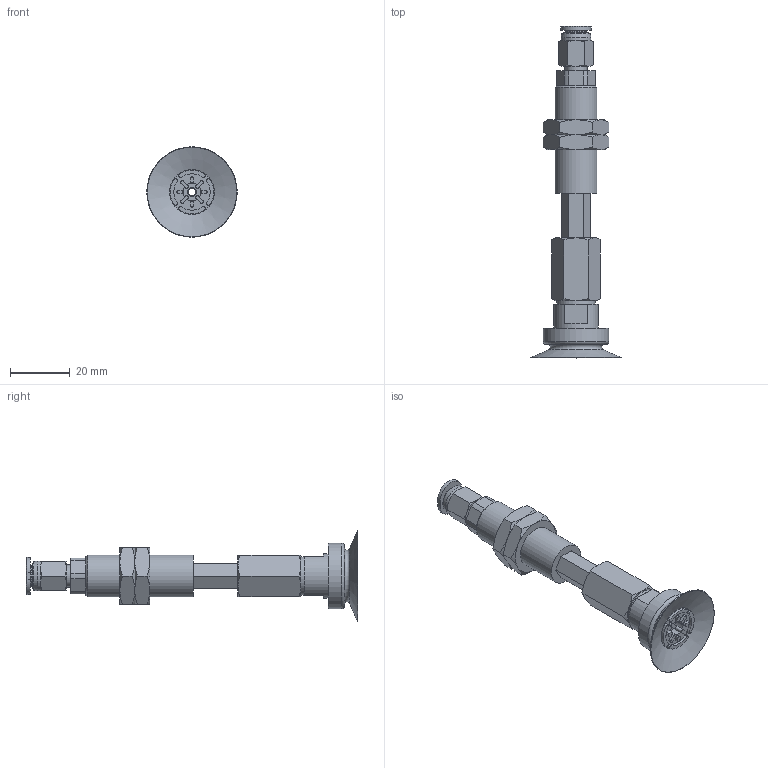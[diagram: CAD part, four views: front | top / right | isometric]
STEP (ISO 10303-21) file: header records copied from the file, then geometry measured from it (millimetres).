
FILE_DESCRIPTION(('STEP AP203'),'1');
FILE_NAME('-O.stp','2025-08-26T08:05:58',(' '),(' '),'Spatial InterOp 3D',' ',' ');
FILE_SCHEMA(('CONFIG_CONTROL_DESIGN'));
Length unit declared in the file: millimetre
Products named in the file (7): BNABPATH-30-15-※-O; ADAPTER; NAPATH-30-15--M; Nut-25-S; NAPATH-30-15--F; BPAG-30-※; PC-C_06-M5
Assembly tree (7 placements, depth 2):
  BNABPATH-30-15-※-O
    ADAPTER
    NAPATH-30-15--M
    Nut-25-S  x2
    NAPATH-30-15--F
    BPAG-30-※
    PC-C_06-M5
Bounding box: 30.3 x 111.18 x 30.3 mm (x, y, z)
Volume: 15891.5 mm3; surface area: 12881.5 mm2
Topology: 6 solids, 9 shells, 243 faces, 555 edges, 348 vertices
Faces by surface type: plane 106, cylinder 64, cone 62, torus 4, bspline 4, revolution 3
Full cylindrical faces by diameter (mm): 3 x3, 4 x2, 4.134 x1, 4.6 x1, 4.917 x1, 5 x1, 6 x1, 7 x1, 7.4 x1, 8.2 x1, 10 x1, 12.917 x2, 13 x1, 14 x1, 15 x1, 22 x1
Entity records: 6843 total; most frequent: CARTESIAN_POINT 1693, DIRECTION 1022, ORIENTED_EDGE 926, EDGE_CURVE 465, AXIS2_PLACEMENT_3D 412, VERTEX_POINT 315, EDGE_LOOP 288, LINE 195
